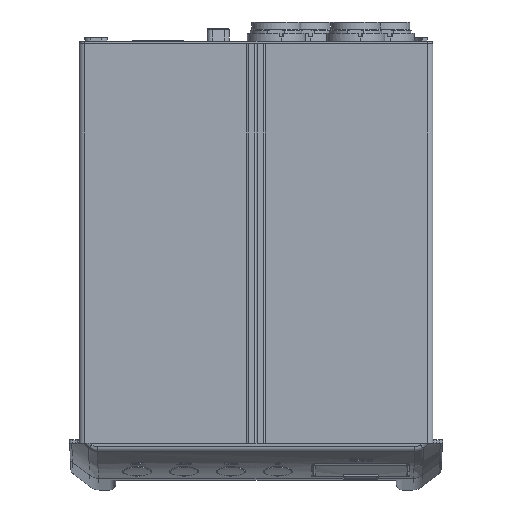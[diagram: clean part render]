
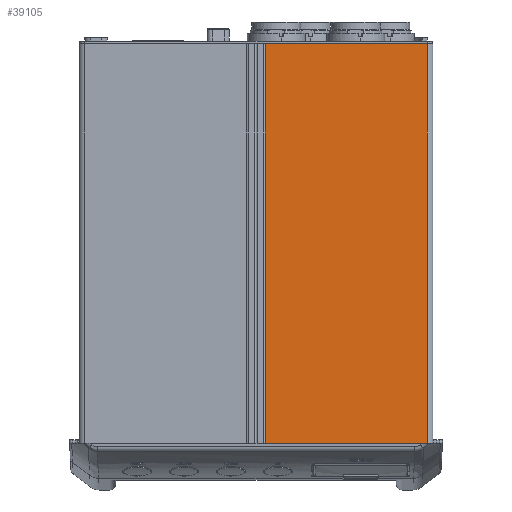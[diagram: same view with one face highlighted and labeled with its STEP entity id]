
A CAD part, front view. The second image highlights one B-rep face of the part: STEP entity #39105.
In plain terms, the highlighted planar face has unit normal (0, -1, 0).
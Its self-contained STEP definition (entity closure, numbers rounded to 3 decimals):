
#3876 = EDGE_CURVE ( 'NONE', #41234, #83490, #80611, .T. ) ;
#5841 = DIRECTION ( 'NONE',  ( 0., 0., 1. ) ) ;
#6010 = LINE ( 'NONE', #38631, #24089 ) ;
#6407 = VECTOR ( 'NONE', #57265, 1000. ) ;
#16086 = DIRECTION ( 'NONE',  ( 1., 0., 0. ) ) ;
#24089 = VECTOR ( 'NONE', #16086, 1000. ) ;
#27185 = ORIENTED_EDGE ( 'NONE', *, *, #75519, .T. ) ;
#28476 = CARTESIAN_POINT ( 'NONE',  ( 72.5, -46., 152.5 ) ) ;
#29424 = DIRECTION ( 'NONE',  ( 1., 0., 0. ) ) ;
#34487 = CARTESIAN_POINT ( 'NONE',  ( 72.5, -46., 152.5 ) ) ;
#37901 = LINE ( 'NONE', #28476, #76601 ) ;
#38426 = CARTESIAN_POINT ( 'NONE',  ( 72.5, -46., 16. ) ) ;
#38631 = CARTESIAN_POINT ( 'NONE',  ( -46.5, -46., 16. ) ) ;
#39105 = ADVANCED_FACE ( 'NONE', ( #71186 ), #59524, .F. ) ;
#39503 = VECTOR ( 'NONE', #29424, 1000. ) ;
#41234 = VERTEX_POINT ( 'NONE', #93483 ) ;
#41357 = CARTESIAN_POINT ( 'NONE',  ( 17.4, -46., 16. ) ) ;
#43508 = CARTESIAN_POINT ( 'NONE',  ( 17.4, -46., 16. ) ) ;
#47496 = LINE ( 'NONE', #41357, #6407 ) ;
#48811 = ORIENTED_EDGE ( 'NONE', *, *, #57615, .T. ) ;
#51860 = VERTEX_POINT ( 'NONE', #38426 ) ;
#52113 = DIRECTION ( 'NONE',  ( 0., 1., 0. ) ) ;
#57265 = DIRECTION ( 'NONE',  ( 0., 0., -1. ) ) ;
#57615 = EDGE_CURVE ( 'NONE', #51860, #83490, #37901, .T. ) ;
#59524 = PLANE ( 'NONE',  #74638 ) ;
#61413 = VERTEX_POINT ( 'NONE', #43508 ) ;
#61733 = EDGE_CURVE ( 'NONE', #41234, #61413, #47496, .T. ) ;
#66191 = ORIENTED_EDGE ( 'NONE', *, *, #61733, .T. ) ;
#71186 = FACE_OUTER_BOUND ( 'NONE', #88612, .T. ) ;
#74638 = AXIS2_PLACEMENT_3D ( 'NONE', #98316, #52113, #5841 ) ;
#75519 = EDGE_CURVE ( 'NONE', #61413, #51860, #6010, .T. ) ;
#75674 = CARTESIAN_POINT ( 'NONE',  ( -46.5, -46., 152.5 ) ) ;
#76601 = VECTOR ( 'NONE', #90290, 1000. ) ;
#80611 = LINE ( 'NONE', #75674, #39503 ) ;
#83490 = VERTEX_POINT ( 'NONE', #34487 ) ;
#86446 = ORIENTED_EDGE ( 'NONE', *, *, #3876, .F. ) ;
#88612 = EDGE_LOOP ( 'NONE', ( #27185, #48811, #86446, #66191 ) ) ;
#90290 = DIRECTION ( 'NONE',  ( 0., 0., 1. ) ) ;
#93483 = CARTESIAN_POINT ( 'NONE',  ( 17.4, -46., 152.5 ) ) ;
#98316 = CARTESIAN_POINT ( 'NONE',  ( -46.5, -46., 152.5 ) ) ;
